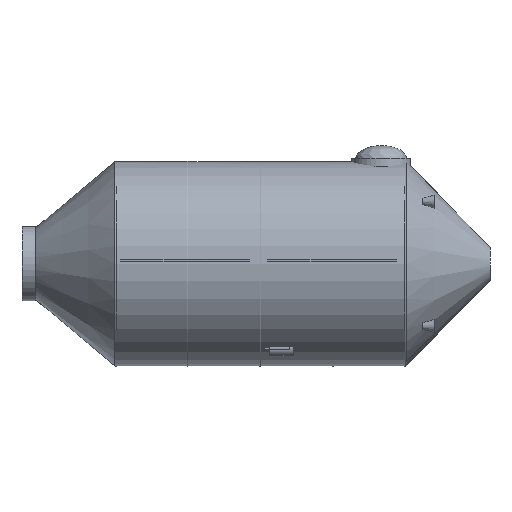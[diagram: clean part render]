
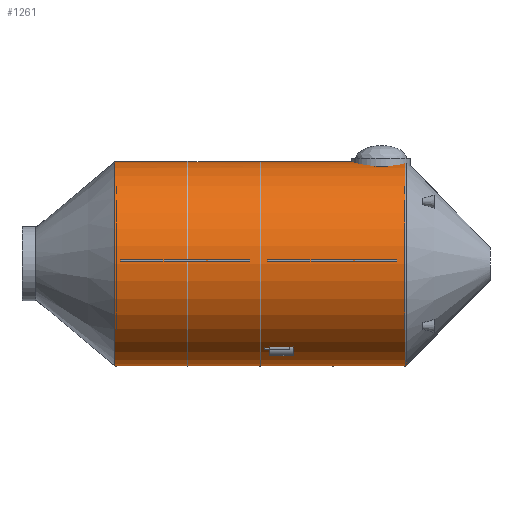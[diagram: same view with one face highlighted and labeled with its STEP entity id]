
A CAD part, front view. The second image highlights one B-rep face of the part: STEP entity #1261.
In plain terms, the highlighted cylindrical face has radius 2200 mm (diameter 4400 mm), a partial arc.
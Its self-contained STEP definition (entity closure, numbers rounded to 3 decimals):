
#1261 = ADVANCED_FACE('',(#1262),#1371,.T.);
#1262 = FACE_BOUND('',#1263,.T.);
#1263 = EDGE_LOOP('',(#1264,#1275,#1348,#1356,#1365));
#1264 = ORIENTED_EDGE('',*,*,#1265,.F.);
#1265 = EDGE_CURVE('',#1266,#1268,#1270,.T.);
#1266 = VERTEX_POINT('',#1267);
#1267 = CARTESIAN_POINT('',(8300.,0.,2200.));
#1268 = VERTEX_POINT('',#1269);
#1269 = CARTESIAN_POINT('',(8300.,0.,-2200.));
#1270 = CIRCLE('',#1271,2200.);
#1271 = AXIS2_PLACEMENT_3D('',#1272,#1273,#1274);
#1272 = CARTESIAN_POINT('',(8300.,0.,0.));
#1273 = DIRECTION('',(1.,0.,0.));
#1274 = DIRECTION('',(-0.,0.,1.));
#1275 = ORIENTED_EDGE('',*,*,#1276,.F.);
#1276 = EDGE_CURVE('',#1277,#1266,#1279,.T.);
#1277 = VERTEX_POINT('',#1278);
#1278 = CARTESIAN_POINT('',(7200.,0.,2200.));
#1279 = B_SPLINE_CURVE_WITH_KNOTS('',7,(#1280,#1281,#1282,#1283,#1284,
    #1285,#1286,#1287,#1288,#1289,#1290,#1291,#1292,#1293,#1294,#1295,
    #1296,#1297,#1298,#1299,#1300,#1301,#1302,#1303,#1304,#1305,#1306,
    #1307,#1308,#1309,#1310,#1311,#1312,#1313,#1314,#1315,#1316,#1317,
    #1318,#1319,#1320,#1321,#1322,#1323,#1324,#1325,#1326,#1327,#1328,
    #1329,#1330,#1331,#1332,#1333,#1334,#1335,#1336,#1337,#1338,#1339,
    #1340,#1341,#1342,#1343,#1344,#1345,#1346,#1347),.UNSPECIFIED.,.F.,
  .F.,(8,6,6,6,6,6,6,6,6,6,6,8),(0.,0.086,0.142,
    0.218,0.28,0.378,0.5,
    0.666,0.782,0.858,0.914,1.),
  .UNSPECIFIED.);
#1280 = CARTESIAN_POINT('',(7200.,0.,2200.));
#1281 = CARTESIAN_POINT('',(7200.,-25.885,2200.));
#1282 = CARTESIAN_POINT('',(7201.421,-51.727,
    2199.645));
#1283 = CARTESIAN_POINT('',(7204.255,-77.36,
    2198.936));
#1284 = CARTESIAN_POINT('',(7208.462,-102.619,
    2197.89));
#1285 = CARTESIAN_POINT('',(7213.971,-127.347,
    2196.534));
#1286 = CARTESIAN_POINT('',(7220.679,-151.391,
    2194.909));
#1287 = CARTESIAN_POINT('',(7233.626,-190.061,
    2191.83));
#1288 = CARTESIAN_POINT('',(7239.275,-205.162,
    2190.499));
#1289 = CARTESIAN_POINT('',(7245.374,-219.902,
    2189.08));
#1290 = CARTESIAN_POINT('',(7251.894,-234.267,
    2187.584));
#1291 = CARTESIAN_POINT('',(7258.806,-248.244,
    2186.021));
#1292 = CARTESIAN_POINT('',(7266.08,-261.825,
    2184.405));
#1293 = CARTESIAN_POINT('',(7283.754,-292.437,
    2180.548));
#1294 = CARTESIAN_POINT('',(7294.406,-309.168,
    2178.275));
#1295 = CARTESIAN_POINT('',(7305.588,-325.194,
    2175.949));
#1296 = CARTESIAN_POINT('',(7317.248,-340.519,
    2173.592));
#1297 = CARTESIAN_POINT('',(7329.339,-355.148,
    2171.223));
#1298 = CARTESIAN_POINT('',(7341.818,-369.091,
    2168.86));
#1299 = CARTESIAN_POINT('',(7365.303,-393.374,
    2164.574));
#1300 = CARTESIAN_POINT('',(7376.202,-403.927,
    2162.645));
#1301 = CARTESIAN_POINT('',(7387.324,-414.021,
    2160.738));
#1302 = CARTESIAN_POINT('',(7398.65,-423.663,
    2158.864));
#1303 = CARTESIAN_POINT('',(7410.164,-432.86,
    2157.027));
#1304 = CARTESIAN_POINT('',(7421.851,-441.62,
    2155.237));
#1305 = CARTESIAN_POINT('',(7452.174,-462.936,
    2150.783));
#1306 = CARTESIAN_POINT('',(7471.041,-474.876,
    2148.193));
#1307 = CARTESIAN_POINT('',(7490.243,-485.79,
    2145.749));
#1308 = CARTESIAN_POINT('',(7509.736,-495.698,
    2143.47));
#1309 = CARTESIAN_POINT('',(7529.48,-504.62,
    2141.372));
#1310 = CARTESIAN_POINT('',(7549.44,-512.572,
    2139.468));
#1311 = CARTESIAN_POINT('',(7594.798,-528.322,
    2135.64));
#1312 = CARTESIAN_POINT('',(7620.299,-535.578,
    2133.832));
#1313 = CARTESIAN_POINT('',(7646.023,-541.359,
    2132.365));
#1314 = CARTESIAN_POINT('',(7671.909,-545.682,
    2131.256));
#1315 = CARTESIAN_POINT('',(7697.903,-548.561,
    2130.513));
#1316 = CARTESIAN_POINT('',(7723.95,-550.,2130.141)
  );
#1317 = CARTESIAN_POINT('',(7785.358,-550.,2130.141)
  );
#1318 = CARTESIAN_POINT('',(7820.705,-547.348,
    2130.826));
#1319 = CARTESIAN_POINT('',(7855.917,-542.047,
    2132.194));
#1320 = CARTESIAN_POINT('',(7890.864,-534.076,
    2134.23));
#1321 = CARTESIAN_POINT('',(7925.403,-523.392,
    2136.9));
#1322 = CARTESIAN_POINT('',(7959.373,-509.933,
    2140.152));
#1323 = CARTESIAN_POINT('',(8015.916,-482.146,
    2146.549));
#1324 = CARTESIAN_POINT('',(8038.88,-469.263,
    2149.44));
#1325 = CARTESIAN_POINT('',(8061.403,-454.934,
    2152.555));
#1326 = CARTESIAN_POINT('',(8083.411,-439.123,
    2155.863));
#1327 = CARTESIAN_POINT('',(8104.815,-421.785,
    2159.326));
#1328 = CARTESIAN_POINT('',(8125.506,-402.877,
    2162.897));
#1329 = CARTESIAN_POINT('',(8158.182,-369.091,
    2168.86));
#1330 = CARTESIAN_POINT('',(8170.661,-355.148,
    2171.223));
#1331 = CARTESIAN_POINT('',(8182.752,-340.519,
    2173.592));
#1332 = CARTESIAN_POINT('',(8194.412,-325.194,
    2175.949));
#1333 = CARTESIAN_POINT('',(8205.594,-309.168,
    2178.275));
#1334 = CARTESIAN_POINT('',(8216.246,-292.437,
    2180.548));
#1335 = CARTESIAN_POINT('',(8233.92,-261.825,
    2184.405));
#1336 = CARTESIAN_POINT('',(8241.194,-248.244,
    2186.021));
#1337 = CARTESIAN_POINT('',(8248.106,-234.267,
    2187.584));
#1338 = CARTESIAN_POINT('',(8254.626,-219.902,
    2189.08));
#1339 = CARTESIAN_POINT('',(8260.725,-205.162,
    2190.499));
#1340 = CARTESIAN_POINT('',(8266.374,-190.061,
    2191.83));
#1341 = CARTESIAN_POINT('',(8279.321,-151.391,
    2194.909));
#1342 = CARTESIAN_POINT('',(8286.029,-127.347,
    2196.534));
#1343 = CARTESIAN_POINT('',(8291.538,-102.619,
    2197.89));
#1344 = CARTESIAN_POINT('',(8295.745,-77.36,
    2198.936));
#1345 = CARTESIAN_POINT('',(8298.579,-51.727,
    2199.645));
#1346 = CARTESIAN_POINT('',(8300.,-25.885,2200.));
#1347 = CARTESIAN_POINT('',(8300.,0.,2200.));
#1348 = ORIENTED_EDGE('',*,*,#1349,.F.);
#1349 = EDGE_CURVE('',#1350,#1277,#1352,.T.);
#1350 = VERTEX_POINT('',#1351);
#1351 = CARTESIAN_POINT('',(2000.,0.,2200.));
#1352 = LINE('',#1353,#1354);
#1353 = CARTESIAN_POINT('',(2000.,0.,2200.));
#1354 = VECTOR('',#1355,1.);
#1355 = DIRECTION('',(1.,0.,0.));
#1356 = ORIENTED_EDGE('',*,*,#1357,.T.);
#1357 = EDGE_CURVE('',#1350,#1358,#1360,.T.);
#1358 = VERTEX_POINT('',#1359);
#1359 = CARTESIAN_POINT('',(2000.,0.,-2200.));
#1360 = CIRCLE('',#1361,2200.);
#1361 = AXIS2_PLACEMENT_3D('',#1362,#1363,#1364);
#1362 = CARTESIAN_POINT('',(2000.,0.,0.));
#1363 = DIRECTION('',(1.,0.,0.));
#1364 = DIRECTION('',(-0.,0.,1.));
#1365 = ORIENTED_EDGE('',*,*,#1366,.T.);
#1366 = EDGE_CURVE('',#1358,#1268,#1367,.T.);
#1367 = LINE('',#1368,#1369);
#1368 = CARTESIAN_POINT('',(2000.,0.,-2200.));
#1369 = VECTOR('',#1370,1.);
#1370 = DIRECTION('',(1.,0.,0.));
#1371 = CYLINDRICAL_SURFACE('',#1372,2200.);
#1372 = AXIS2_PLACEMENT_3D('',#1373,#1374,#1375);
#1373 = CARTESIAN_POINT('',(2000.,0.,0.));
#1374 = DIRECTION('',(1.,0.,0.));
#1375 = DIRECTION('',(-0.,0.,1.));
